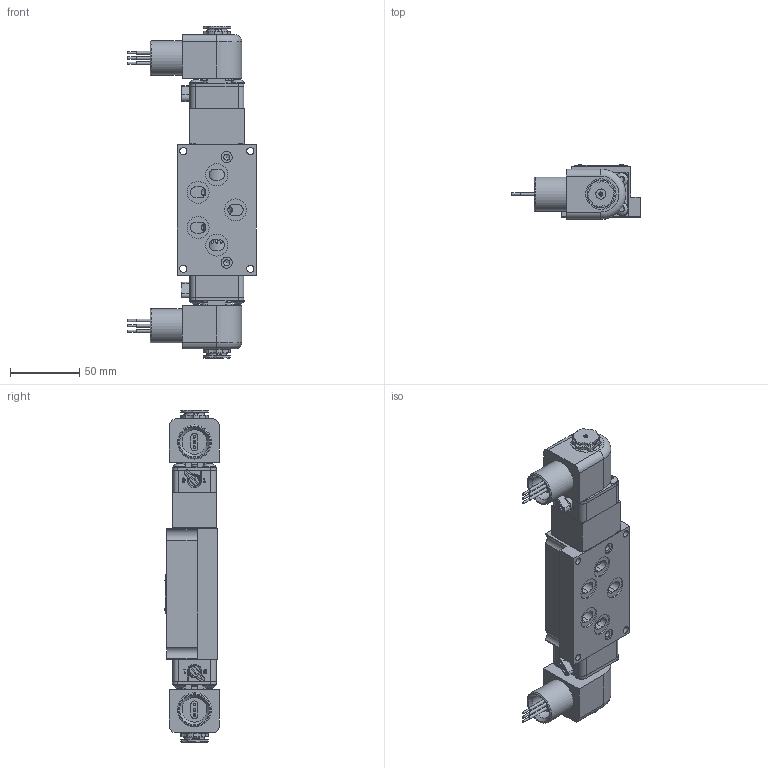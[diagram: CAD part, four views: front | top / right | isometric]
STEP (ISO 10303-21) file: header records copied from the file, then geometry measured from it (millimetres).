
FILE_DESCRIPTION(/* description */ (''),/* implementation_level */ '2;1');
FILE_NAME(/* name */ 'D:\Engineering\Product\valves\Assembly\standard\ESS\stp\ESS3PXOCQ.stp',/* time_stamp */ '2022-06-22T07:59:52-04:00',/* author */ ('RMcKenna'),/* organization */ (''),/* preprocessor_version */ 'ST-DEVELOPER v18.1',/* originating_system */ 'Autodesk Inventor 2021',/* authorisation */ '');
FILE_SCHEMA (('AUTOMOTIVE_DESIGN { 1 0 10303 214 3 1 1 }'));
Products named in the file (1): Part86
Bounding box: 92.98 x 39.51 x 239.67 mm (x, y, z)
Volume: 307370.9 mm3; surface area: 100802.1 mm2
Topology: 1 solids, 28 shells, 2036 faces, 5013 edges, 3201 vertices
Faces by surface type: plane 890, cylinder 667, cone 262, torus 149, bspline 58, sphere 10
Full cylindrical faces by diameter (mm): 1.168 x20, 1.3 x2, 1.397 x2, 1.5 x2, 1.524 x6, 2.032 x22, 2.07 x2, 2.261 x2, 2.35 x8, 2.5 x2, 2.778 x2, 2.8 x2, 3 x8, 3.048 x3, 3.175 x1, 3.4 x2, 3.683 x10, 3.861 x2, 4.191 x4, 4.366 x2, 4.369 x3, 4.826 x8, 4.978 x2, 5.15 x8, 5.156 x12, 5.159 x8, 5.5 x2, 6.65 x2, 7.29 x2, 7.9 x2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
Entity records: 67964 total; most frequent: CARTESIAN_POINT 16917, DIRECTION 10431, ORIENTED_EDGE 9982, EDGE_CURVE 4991, AXIS2_PLACEMENT_3D 4009, VERTEX_POINT 3201, LINE 2413, VECTOR 2413
